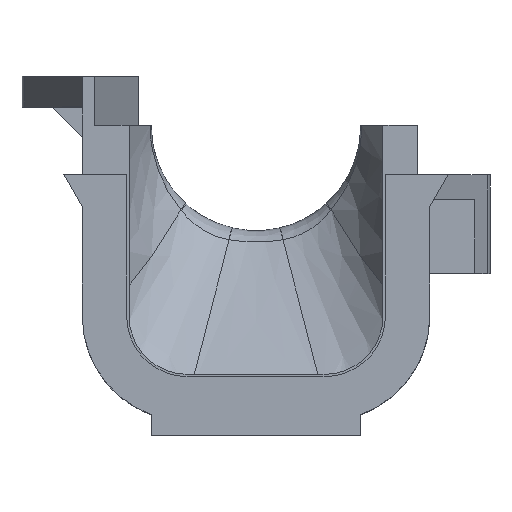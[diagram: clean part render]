
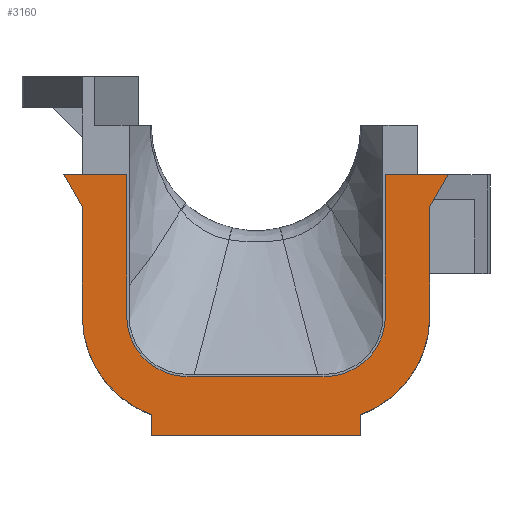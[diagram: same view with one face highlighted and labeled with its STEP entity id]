
A CAD part, top view. The second image highlights one B-rep face of the part: STEP entity #3160.
In plain terms, the highlighted planar face has unit normal (0, 0, 1).
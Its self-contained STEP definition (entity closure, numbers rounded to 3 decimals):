
#538=DIRECTION('',(0.,1.,0.));
#539=VECTOR('',#538,8.902);
#540=CARTESIAN_POINT('',(-14.1,8.5,0.));
#541=LINE('',#540,#539);
#542=DIRECTION('',(0.5,-0.866,0.));
#543=VECTOR('',#542,3.);
#544=CARTESIAN_POINT('',(-15.6,20.,0.));
#545=LINE('',#544,#543);
#546=DIRECTION('',(0.,-1.,0.));
#547=VECTOR('',#546,11.5);
#548=CARTESIAN_POINT('',(-10.5,20.,0.));
#549=LINE('',#548,#547);
#550=CARTESIAN_POINT('',(-5.6,8.5,0.));
#551=DIRECTION('',(0.,0.,1.));
#552=DIRECTION('',(-1.,0.,0.));
#553=AXIS2_PLACEMENT_3D('',#550,#551,#552);
#555=DIRECTION('',(1.,0.,0.));
#556=VECTOR('',#555,11.2);
#557=CARTESIAN_POINT('',(-5.6,3.6,0.));
#558=LINE('',#557,#556);
#559=CARTESIAN_POINT('',(5.6,8.5,0.));
#560=DIRECTION('',(0.,0.,1.));
#561=DIRECTION('',(0.,-1.,0.));
#562=AXIS2_PLACEMENT_3D('',#559,#560,#561);
#564=DIRECTION('',(0.,-1.,0.));
#565=VECTOR('',#564,11.5);
#566=CARTESIAN_POINT('',(10.5,20.,0.));
#567=LINE('',#566,#565);
#568=DIRECTION('',(0.5,0.866,0.));
#569=VECTOR('',#568,3.);
#570=CARTESIAN_POINT('',(14.1,17.402,0.));
#571=LINE('',#570,#569);
#572=DIRECTION('',(0.,-1.,0.));
#573=VECTOR('',#572,8.902);
#574=CARTESIAN_POINT('',(14.1,17.402,0.));
#575=LINE('',#574,#573);
#576=CARTESIAN_POINT('',(5.6,8.5,0.));
#577=DIRECTION('',(0.,0.,-1.));
#578=DIRECTION('',(1.,0.,0.));
#579=AXIS2_PLACEMENT_3D('',#576,#577,#578);
#581=DIRECTION('',(0.,1.,0.));
#582=VECTOR('',#581,1.71);
#583=CARTESIAN_POINT('',(8.5,-1.2,0.));
#584=LINE('',#583,#582);
#585=DIRECTION('',(1.,0.,0.));
#586=VECTOR('',#585,17.);
#587=CARTESIAN_POINT('',(-8.5,-1.2,0.));
#588=LINE('',#587,#586);
#589=DIRECTION('',(0.,-1.,0.));
#590=VECTOR('',#589,1.71);
#591=CARTESIAN_POINT('',(-8.5,0.51,0.));
#592=LINE('',#591,#590);
#593=CARTESIAN_POINT('',(-5.6,8.5,0.));
#594=DIRECTION('',(0.,0.,-1.));
#595=DIRECTION('',(-0.341,-0.94,0.));
#596=AXIS2_PLACEMENT_3D('',#593,#594,#595);
#645=DIRECTION('',(-1.,0.,0.));
#646=VECTOR('',#645,5.1);
#647=CARTESIAN_POINT('',(15.6,20.,0.));
#648=LINE('',#647,#646);
#866=DIRECTION('',(-1.,0.,0.));
#867=VECTOR('',#866,5.1);
#868=CARTESIAN_POINT('',(-10.5,20.,0.));
#869=LINE('',#868,#867);
#2129=CARTESIAN_POINT('',(-8.5,-1.2,0.));
#2130=CARTESIAN_POINT('',(8.5,-1.2,0.));
#2131=VERTEX_POINT('',#2129);
#2132=VERTEX_POINT('',#2130);
#2137=CARTESIAN_POINT('',(14.1,8.5,0.));
#2138=CARTESIAN_POINT('',(8.5,0.51,0.));
#2139=VERTEX_POINT('',#2137);
#2140=VERTEX_POINT('',#2138);
#2141=CARTESIAN_POINT('',(-8.5,0.51,0.));
#2142=CARTESIAN_POINT('',(-14.1,8.5,0.));
#2143=VERTEX_POINT('',#2141);
#2144=VERTEX_POINT('',#2142);
#2164=CARTESIAN_POINT('',(15.6,20.,0.));
#2166=VERTEX_POINT('',#2164);
#2168=CARTESIAN_POINT('',(-15.6,20.,0.));
#2170=VERTEX_POINT('',#2168);
#2171=CARTESIAN_POINT('',(-14.1,17.402,0.));
#2172=VERTEX_POINT('',#2171);
#2173=CARTESIAN_POINT('',(14.1,17.402,0.));
#2174=VERTEX_POINT('',#2173);
#2193=CARTESIAN_POINT('',(10.5,20.,0.));
#2194=VERTEX_POINT('',#2193);
#2195=CARTESIAN_POINT('',(-10.5,20.,0.));
#2196=VERTEX_POINT('',#2195);
#2257=CARTESIAN_POINT('',(10.5,8.5,0.));
#2259=VERTEX_POINT('',#2257);
#2261=CARTESIAN_POINT('',(5.6,3.6,0.));
#2263=VERTEX_POINT('',#2261);
#2265=CARTESIAN_POINT('',(-5.6,3.6,0.));
#2267=VERTEX_POINT('',#2265);
#2304=CARTESIAN_POINT('',(-10.5,8.5,0.));
#2305=VERTEX_POINT('',#2304);
#3124=CARTESIAN_POINT('',(0.,0.,0.));
#3125=DIRECTION('',(0.,0.,1.));
#3126=DIRECTION('',(1.,0.,0.));
#3127=AXIS2_PLACEMENT_3D('',#3124,#3125,#3126);
#3128=PLANE('',#3127);
#3129=ORIENTED_EDGE('',*,*,#2747,.T.);
#3131=ORIENTED_EDGE('',*,*,#3130,.F.);
#3133=ORIENTED_EDGE('',*,*,#3132,.F.);
#3135=ORIENTED_EDGE('',*,*,#3134,.T.);
#3137=ORIENTED_EDGE('',*,*,#3136,.T.);
#3139=ORIENTED_EDGE('',*,*,#3138,.T.);
#3141=ORIENTED_EDGE('',*,*,#3140,.T.);
#3143=ORIENTED_EDGE('',*,*,#3142,.F.);
#3145=ORIENTED_EDGE('',*,*,#3144,.F.);
#3147=ORIENTED_EDGE('',*,*,#3146,.F.);
#3149=ORIENTED_EDGE('',*,*,#3148,.T.);
#3150=ORIENTED_EDGE('',*,*,#3085,.T.);
#3151=ORIENTED_EDGE('',*,*,#3115,.F.);
#3153=ORIENTED_EDGE('',*,*,#3152,.F.);
#3155=ORIENTED_EDGE('',*,*,#3154,.F.);
#3157=ORIENTED_EDGE('',*,*,#3156,.T.);
#3158=EDGE_LOOP('',(#3129,#3131,#3133,#3135,#3137,#3139,#3141,#3143,#3145,#3147,
#3149,#3150,#3151,#3153,#3155,#3157));
#3159=FACE_OUTER_BOUND('',#3158,.F.);
#3160=ADVANCED_FACE('',(#3159),#3128,.T.);
#554=CIRCLE('',#553,4.9);
#563=CIRCLE('',#562,4.9);
#580=CIRCLE('',#579,8.5);
#597=CIRCLE('',#596,8.5);
#2747=EDGE_CURVE('',#2144,#2172,#541,.T.);
#3085=EDGE_CURVE('',#2139,#2140,#580,.T.);
#3115=EDGE_CURVE('',#2132,#2140,#584,.T.);
#3130=EDGE_CURVE('',#2170,#2172,#545,.T.);
#3132=EDGE_CURVE('',#2196,#2170,#869,.T.);
#3134=EDGE_CURVE('',#2196,#2305,#549,.T.);
#3136=EDGE_CURVE('',#2305,#2267,#554,.T.);
#3138=EDGE_CURVE('',#2267,#2263,#558,.T.);
#3140=EDGE_CURVE('',#2263,#2259,#563,.T.);
#3142=EDGE_CURVE('',#2194,#2259,#567,.T.);
#3144=EDGE_CURVE('',#2166,#2194,#648,.T.);
#3146=EDGE_CURVE('',#2174,#2166,#571,.T.);
#3148=EDGE_CURVE('',#2174,#2139,#575,.T.);
#3152=EDGE_CURVE('',#2131,#2132,#588,.T.);
#3154=EDGE_CURVE('',#2143,#2131,#592,.T.);
#3156=EDGE_CURVE('',#2143,#2144,#597,.T.);
